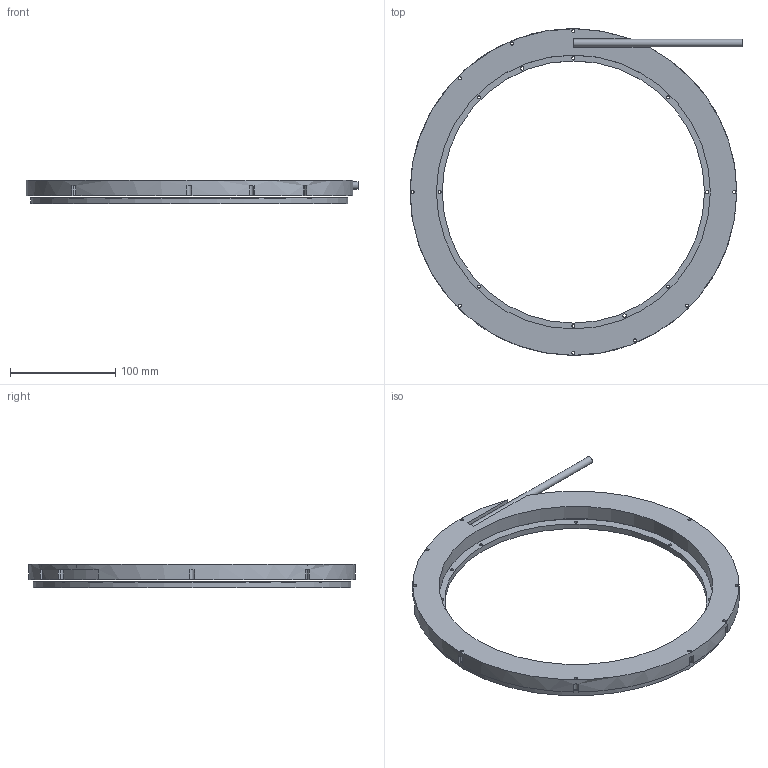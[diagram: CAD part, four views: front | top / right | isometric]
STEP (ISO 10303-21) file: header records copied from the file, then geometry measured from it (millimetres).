
FILE_DESCRIPTION(('STEP AP242'), '1');
FILE_NAME('YA-310', '', ('UNSPECIFIED'), ('UNSPECIFIED'), 'C3D Converter', 'C3D Toolkit', '');
FILE_SCHEMA(('AP242_MANAGED_MODEL_BASED_3D_ENGINEERING_MIM_LF { 1 0 10303 442 1 1 4 }'));
Length unit declared in the file: millimetre
Products named in the file (4): -05
Assembly tree (3 placements, depth 2):
  (unnamed)
    -05
    -05
    (unnamed)
Bounding box: 315 x 310 x 21.9 mm (x, y, z)
Volume: 447781.3 mm3; surface area: 164778.4 mm2
Topology: 3 solids, 3 shells, 798 faces, 2368 edges, 1578 vertices
Faces by surface type: plane 759, cylinder 39
Full cylindrical faces by diameter (mm): 2.9 x15, 3.2 x4, 7 x1, 248.8 x1, 259.8 x1, 265 x2, 299 x2, 301 x1, 310 x1
Entity records: 31442 total; most frequent: DIRECTION 4760, CARTESIAN_POINT 4720, ORIENTED_EDGE 4680, EDGE_CURVE 2340, AXIS2_PLACEMENT_3D 1618, VERTEX_POINT 1578, LINE 1524, VECTOR 1524
